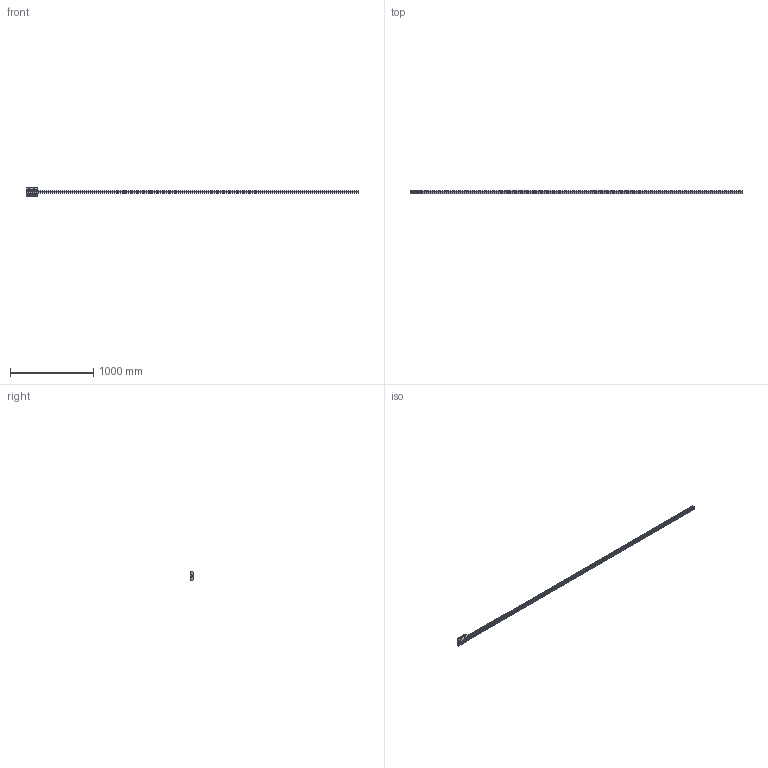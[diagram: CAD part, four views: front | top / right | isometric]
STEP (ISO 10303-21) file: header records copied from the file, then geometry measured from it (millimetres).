
FILE_DESCRIPTION( ( 'STEP AP203' ), '1' );
FILE_NAME( 'p:/temp/worker_8/temp/exporttempdir_5100_74_2daw7/format_0/FDI35 84364NV_4000-0.stp', '2021-02-04T01:58:09', ( 'License CC BY-ND 4.0' ), ( 'CADENAS' ), ' ', 'PARTsolutions', ' ' );
FILE_SCHEMA( ( 'CONFIG_CONTROL_DESIGN' ) );
Length unit declared in the file: millimetre
Products named in the file (3): FDI35 84364NV_4000-0; _FDI K_35K-4000-0; _FDI_35K Slider
Assembly tree (2 placements, depth 2):
  FDI35 84364NV_4000-0
    _FDI K_35K-4000-0
    _FDI_35K Slider
Bounding box: 4000 x 48 x 100 mm (x, y, z)
Volume: 3833456.4 mm3; surface area: 777430 mm2
Topology: 2 solids, 2 shells, 476 faces, 1227 edges, 834 vertices
Faces by surface type: cylinder 250, plane 215, torus 8, cone 3
Full cylindrical faces by diameter (mm): 8.376 x4, 9 x50, 10 x8, 11 x12, 15 x50
Entity records: 13891 total; most frequent: DIRECTION 2497, CARTESIAN_POINT 2323, ORIENTED_EDGE 2070, EDGE_CURVE 1035, AXIS2_PLACEMENT_3D 990, EDGE_LOOP 795, VERTEX_POINT 774, FACE_OUTER_BOUND 608
